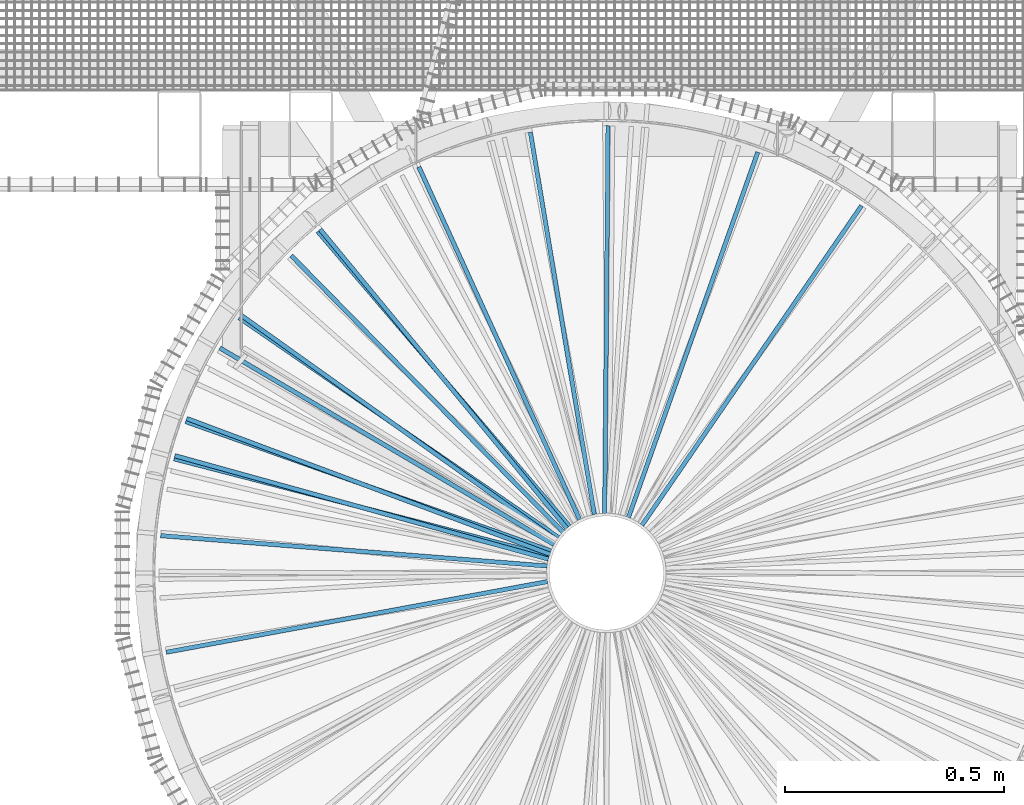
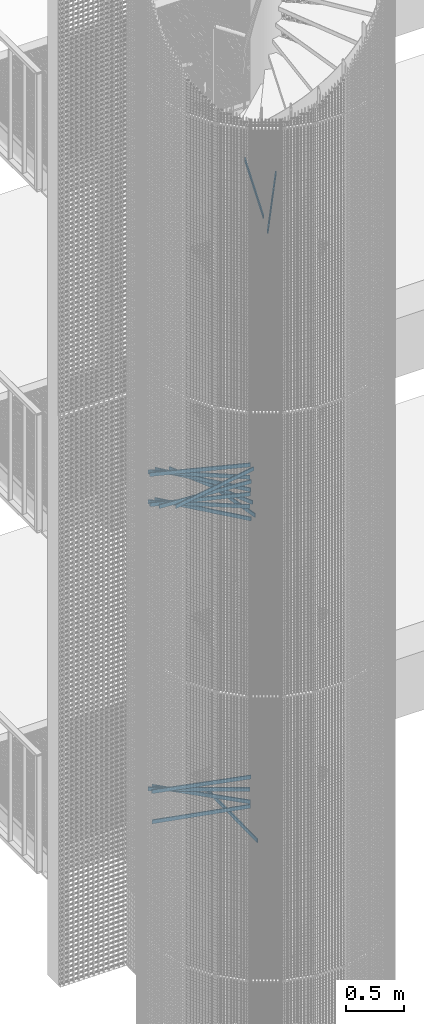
# One storey, part 226 of 1183: 17 beams, 2 elements without a shape of their own.
"""IFC2X3 building model written with IfcOpenShell, lengths in millimetres."""

import ifcopenshell
import ifcopenshell.guid

model = None  # the IFC model being written
_history = None  # IfcOwnerHistory: only IFC2X3 demands one
_inside = {}  # id of a spatial element -> (the spatial element, [elements in it])
_under = {}  # id of a project, library or spatial element -> (it, [spatial elements below it])
_declared = {}  # id of a project -> (the project, [libraries it declares])
_typed = {}  # id of a type object -> (the type object, [elements of that type])
_made_of = {}  # id of a material, layer set ... -> (it, [elements and type objects made of it])


def new_model(schema):
    """Start an empty IFC model of exactly this schema.

    Asked for "IFC4X3", IfcOpenShell would pick the latest addendum, in which some entities
    have other attributes; the version numbers below select the first issue.
    IFC2X3 requires an IfcOwnerHistory on every rooted entity: one is made here for all.
    """
    global model, _history
    if schema == "IFC4X3":
        model = ifcopenshell.file(schema_version=(4, 3, 0, 0))
    else:
        model = ifcopenshell.file(schema=schema)
    _inside.clear()
    _under.clear()
    _declared.clear()
    _typed.clear()
    _made_of.clear()
    _history = None
    if model.schema == "IFC2X3":
        org = make("IfcOrganization", Name="unknown")
        user = make(
            "IfcPersonAndOrganization",
            ThePerson=make("IfcPerson", FamilyName="unknown"),
            TheOrganization=org,
        )
        app = make(
            "IfcApplication",
            ApplicationDeveloper=org,
            Version="unknown",
            ApplicationFullName="unknown",
            ApplicationIdentifier="unknown",
        )
        _history = make(
            "IfcOwnerHistory",
            OwningUser=user,
            OwningApplication=app,
            ChangeAction="ADDED",
            CreationDate=0,
        )
    return model


def make(cls, **values):
    """One entity of the class cls with the attributes given. An attribute that is None is left unset."""
    return model.create_entity(
        cls, **{name: value for name, value in values.items() if value is not None}
    )


def rooted(cls, **values):
    """An entity with a GlobalId (a new one), such as an element, a storey or a relation."""
    return make(cls, GlobalId=ifcopenshell.guid.new(), OwnerHistory=_history, **values)


def si_unit(unit_type, name, prefix=None):
    """IfcSIUnit, for example si_unit("LENGTHUNIT", "METRE", prefix="MILLI")."""
    return make("IfcSIUnit", UnitType=unit_type, Prefix=prefix, Name=name)


def assignment(units):
    """IfcUnitAssignment: the units of a project."""
    return None if units is None else make("IfcUnitAssignment", Units=units)


def point(xyz):
    """IfcCartesianPoint."""
    return None if xyz is None else make("IfcCartesianPoint", Coordinates=xyz)


def direction(xyz):
    """IfcDirection."""
    return None if xyz is None else make("IfcDirection", DirectionRatios=xyz)


def frame(location, z_axis=None, x_axis=None):
    """IfcAxis2Placement3D, a coordinate frame: its origin and axes. An axis left out is left unset."""
    return make(
        "IfcAxis2Placement3D",
        Location=point(location),
        Axis=direction(z_axis),
        RefDirection=direction(x_axis),
    )


def frame_2d(location, x_axis=None):
    """IfcAxis2Placement2D, a coordinate frame in the plane: its origin and x axis."""
    return make(
        "IfcAxis2Placement2D", Location=point(location), RefDirection=direction(x_axis)
    )


def origin_with_axes():
    """The frame at (0, 0, 0) with the z axis (0, 0, 1) and the x axis (1, 0, 0) written out."""
    return frame((0.0, 0.0, 0.0), z_axis=(0.0, 0.0, 1.0), x_axis=(1.0, 0.0, 0.0))


def origin_2d_with_axis():
    """The frame at (0, 0) in the plane with the x axis (1, 0) written out."""
    return frame_2d((0.0, 0.0), x_axis=(1.0, 0.0))


def place(relative_to, where):
    """IfcLocalPlacement: puts the frame where relative to a parent placement (None: the world)."""
    return make(
        "IfcLocalPlacement", PlacementRelTo=relative_to, RelativePlacement=where
    )


def context(
    kind, dimensions, precision=None, world=None, true_north=None, identifier=None
):
    """IfcGeometricRepresentationContext, for example the 3D "Model" context."""
    return make(
        "IfcGeometricRepresentationContext",
        ContextIdentifier=identifier,
        ContextType=kind,
        CoordinateSpaceDimension=dimensions,
        Precision=precision,
        WorldCoordinateSystem=world,
        TrueNorth=true_north,
    )


def subcontext(parent, identifier, kind, view, scale=None):
    """IfcGeometricRepresentationSubContext, for example "Body" below "Model"."""
    return make(
        "IfcGeometricRepresentationSubContext",
        ContextIdentifier=identifier,
        ContextType=kind,
        ParentContext=parent,
        TargetScale=scale,
        TargetView=view,
    )


def project(units=None, contexts=None):
    """IfcProject with its units and contexts."""
    return rooted(
        "IfcProject",
        Name="project",
        RepresentationContexts=contexts,
        UnitsInContext=assignment(units),
    )


def spatial(cls, under=None, at=None, **own):
    """A site, building, storey or space (cls), placed at a placement, below another one or the project."""
    s = rooted(cls, ObjectPlacement=at, **own)
    if under is not None:
        _under.setdefault(under.id(), (under, []))[1].append(s)
    return s


def polyline(points):
    """IfcPolyline through the points."""
    return make("IfcPolyline", Points=[point(p) for p in points])


def profile(cls, at=None, kind="AREA", **sizes):
    """A parametric profile (cls). Its sizes go by their IFC names, for example OverallWidth=200.0."""
    return make(cls, ProfileType=kind, Position=at, **sizes)


def rectangle(**sizes):
    """IfcRectangleProfileDef."""
    return profile("IfcRectangleProfileDef", **sizes)


def outline(outer, holes=None, kind="AREA"):
    """IfcArbitraryClosedProfileDef: a profile drawn as a closed curve; with holes, ...WithVoids."""
    if holes is None:
        return make("IfcArbitraryClosedProfileDef", ProfileType=kind, OuterCurve=outer)
    return make(
        "IfcArbitraryProfileDefWithVoids",
        ProfileType=kind,
        OuterCurve=outer,
        InnerCurves=holes,
    )


def extrude(swept, where, along, depth):
    """IfcExtrudedAreaSolid: the profile swept, set in the frame where, extruded along a direction by depth."""
    return make(
        "IfcExtrudedAreaSolid",
        SweptArea=swept,
        Position=where,
        ExtrudedDirection=direction(along),
        Depth=depth,
    )


def boolean(op, a, b):
    """IfcBooleanResult of two solids."""
    return make("IfcBooleanResult", Operator=op, FirstOperand=a, SecondOperand=b)


def shape(context_of_items, identifier, shape_type, items):
    """IfcShapeRepresentation: the items that make up one representation, for example the "Body"."""
    return make(
        "IfcShapeRepresentation",
        ContextOfItems=context_of_items,
        RepresentationIdentifier=identifier,
        RepresentationType=shape_type,
        Items=items,
    )


def material(Name=None, Category=None):
    """IfcMaterial."""
    return make("IfcMaterial", Name=Name, Category=Category)


def made_of(thing, what):
    """Note that an element or type object is made of a material, layer set ...; save() writes the relation."""
    if what is not None:
        _made_of.setdefault(what.id(), (what, []))[1].append(thing)
    return thing


def type_object(cls, material=None, **own):
    """A type object (cls), such as IfcWallType, which elements share."""
    return made_of(rooted(cls, **own), material)


def element(
    cls,
    number,
    at=None,
    inside=None,
    cuts=None,
    type_object=None,
    material=None,
    context=None,
    identifier="Body",
    shape_type=None,
    held_by="IfcProductDefinitionShape",
    body=None,
    shapes=None,
    **own,
):
    """One element of the class cls, such as IfcWall. Its Tag is "e" and its number.

    at: its placement. inside: the storey or other place that contains it. cuts: it is an
    opening in that element (IfcRelVoidsElement). A single representation is given by context,
    identifier, shape_type and body (its items); several are given by shapes. held_by: the class
    of the entity that holds the representations. save() writes the other relations.
    """
    e = rooted(cls, Tag="e%d" % number, ObjectPlacement=at, **own)
    if body is not None:
        shapes = [shape(context, identifier, shape_type, body)]
    if shapes is not None:
        e.Representation = make(held_by, Representations=shapes)
    if inside is not None:
        _inside.setdefault(inside.id(), (inside, []))[1].append(e)
    if cuts is not None:
        rooted(
            "IfcRelVoidsElement", RelatingBuildingElement=cuts, RelatedOpeningElement=e
        )
    if type_object is not None:
        _typed.setdefault(type_object.id(), (type_object, []))[1].append(e)
    return made_of(e, material)


def aggregate(whole, parts):
    """IfcRelAggregates: a whole, such as a stair, and the parts it consists of."""
    return rooted("IfcRelAggregates", RelatingObject=whole, RelatedObjects=parts)


def save(model, path):
    """Write the relations noted so far, then the file.

    IfcRelAggregates (storeys below a building ...), IfcRelContainedInSpatialStructure (elements
    in a storey), IfcRelDefinesByType, IfcRelAssociatesMaterial and IfcRelDeclares: one each for
    every whole, place, type object, material and project.
    """
    for whole, parts in _under.values():
        aggregate(whole, parts)
    for where, things in _inside.values():
        rooted(
            "IfcRelContainedInSpatialStructure",
            RelatedElements=things,
            RelatingStructure=where,
        )
    for kind, things in _typed.values():
        rooted("IfcRelDefinesByType", RelatedObjects=things, RelatingType=kind)
    for what, things in _made_of.values():
        rooted("IfcRelAssociatesMaterial", RelatedObjects=things, RelatingMaterial=what)
    for by, libraries in _declared.values():
        rooted("IfcRelDeclares", RelatingContext=by, RelatedDefinitions=libraries)
    model.write(path)


model = new_model("IFC2X3")

# Units and contexts
model_context = context("Model", 3, precision=1e-05, world=origin_with_axes())
body_context = subcontext(model_context, "Body", "Model", "MODEL_VIEW")
ifc_project = project(units=[si_unit("LENGTHUNIT", "METRE", prefix="MILLI"), si_unit("AREAUNIT", "SQUARE_METRE"), si_unit("VOLUMEUNIT", "CUBIC_METRE"), si_unit("MASSUNIT", "GRAM", prefix="KILO"), si_unit("TIMEUNIT", "SECOND"), si_unit("PLANEANGLEUNIT", "RADIAN"), si_unit("SOLIDANGLEUNIT", "STERADIAN"), si_unit("THERMODYNAMICTEMPERATUREUNIT", "DEGREE_CELSIUS"), si_unit("LUMINOUSINTENSITYUNIT", "LUMEN")], contexts=[model_context])

# Site, building, storey
site_placement = place(None, origin_with_axes())
site = spatial("IfcSite", under=ifc_project, at=site_placement, Name="Undefined", CompositionType="ELEMENT")
building_placement = place(site_placement, origin_with_axes())
building = spatial("IfcBuilding", under=site, at=building_placement, Name="Undefined", CompositionType="ELEMENT")
storey_placement = place(building_placement, origin_with_axes())
storey = spatial("IfcBuildingStorey", under=building, at=storey_placement, Name="Undefined", CompositionType="ELEMENT", Elevation=0.0)

# Assembly, beams
assembly_1_placement = place(storey_placement, origin_with_axes())
assembly_1 = element("IfcElementAssembly", 1, at=assembly_1_placement, inside=storey, Name="POTEAU", AssemblyPlace="NOTDEFINED", PredefinedType="NOTDEFINED")
ifc_material = material(Name="STEEL/S235JR")
beam_type = type_object("IfcBeamType", Name="PL10*40", PredefinedType="NOTDEFINED")
beam_1_placement = place(assembly_1_placement, frame((-83.418226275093, -10.3535337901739, 10692.08), z_axis=(0.0, 0.0, 1.0), x_axis=(-0.983301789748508, -0.181982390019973, 0.0)))
beam_1 = element("IfcBeam", 2, at=beam_1_placement, type_object=beam_type, material=ifc_material, Name="RAIDISSEUR", context=body_context, shape_type="CSG", body=[
    boolean("DIFFERENCE", extrude(rectangle(XDim=10.0, YDim=40.0, at=origin_2d_with_axis()), frame((935.982964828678, -2.59787459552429e-14, -3.63797880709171e-12), z_axis=(-1.0, 0.0, 0.0), x_axis=(0.0, -1.0, 0.0)), (0.0, 0.0, 1.0), 935.98), extrude(outline(polyline([(0.0, 0.0), (30.5663019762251, -4.91127138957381e-11), (60.366242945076, 6.80164206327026), (87.9055294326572, 20.0638634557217), (111.803226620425, 39.1216410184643), (130.861004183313, 63.0193382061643), (144.123225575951, 90.5586246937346), (150.9248676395, 120.358565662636), (150.924867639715, 150.924867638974), (144.123225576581, 180.724808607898), (130.86100418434, 208.264095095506), (111.803226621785, 232.161792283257), (87.9055294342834, 251.219569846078), (60.3662429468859, 264.481791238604), (30.5663019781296, 271.283433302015), (1.90266291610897e-09, 271.28343330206), (-29.7999409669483, 264.481791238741), (-57.3392274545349, 251.219569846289), (-81.2369246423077, 232.161792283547), (-100.294702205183, 208.26409509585), (-113.556923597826, 180.724808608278), (-120.35856566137, 150.92486763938), (-120.358565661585, 120.358565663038), (-113.556923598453, 90.5586246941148), (-100.294702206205, 63.0193382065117), (-81.2369246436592, 39.1216410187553), (-57.3392274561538, 20.0638634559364), (-29.7999409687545, 6.80164206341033), (0.0, 0.0)])), frame((49.6502307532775, -23.1790904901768, -22.5), z_axis=(0.0, 0.0, 1.0), x_axis=(0.0955894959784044, 0.995420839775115, 0.0)), (0.0, 0.0, 1.0), 45.0)),
])
beam_2_placement = place(assembly_1_placement, frame((51.6645395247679, 66.3066474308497, 13039.88), z_axis=(0.0, 0.0, 1.0), x_axis=(0.566618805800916, 0.823980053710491, 0.0)))
beam_2 = element("IfcBeam", 3, at=beam_2_placement, type_object=beam_type, material=ifc_material, Name="RAIDISSEUR", context=body_context, shape_type="CSG", body=[
    boolean("DIFFERENCE", extrude(rectangle(XDim=10.0, YDim=40.0, at=origin_2d_with_axis()), frame((935.982964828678, -2.59787459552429e-14, -3.63797880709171e-12), z_axis=(-1.0, 0.0, 0.0), x_axis=(0.0, -1.0, 0.0)), (0.0, 0.0, 1.0), 935.98), extrude(outline(polyline([(0.0, 0.0), (30.5663019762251, -4.91127138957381e-11), (60.366242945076, 6.80164206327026), (87.9055294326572, 20.0638634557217), (111.803226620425, 39.1216410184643), (130.861004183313, 63.0193382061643), (144.123225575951, 90.5586246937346), (150.9248676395, 120.358565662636), (150.924867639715, 150.924867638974), (144.123225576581, 180.724808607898), (130.86100418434, 208.264095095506), (111.803226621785, 232.161792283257), (87.9055294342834, 251.219569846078), (60.3662429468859, 264.481791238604), (30.5663019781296, 271.283433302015), (1.90266291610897e-09, 271.28343330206), (-29.7999409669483, 264.481791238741), (-57.3392274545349, 251.219569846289), (-81.2369246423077, 232.161792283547), (-100.294702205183, 208.26409509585), (-113.556923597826, 180.724808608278), (-120.35856566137, 150.92486763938), (-120.358565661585, 120.358565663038), (-113.556923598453, 90.5586246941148), (-100.294702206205, 63.0193382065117), (-81.2369246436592, 39.1216410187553), (-57.3392274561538, 20.0638634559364), (-29.7999409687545, 6.80164206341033), (0.0, 0.0)])), frame((-158.424783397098, 119.366583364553, -22.5), z_axis=(0.0, 0.0, 1.0), x_axis=(-0.771460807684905, -0.636276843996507, 0.0)), (0.0, 0.0, 1.0), 45.0)),
])
beam_3_placement = place(assembly_1_placement, frame((-80.353043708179, 24.6816633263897, 10692.08), z_axis=(0.0, 0.0, 1.0), x_axis=(-0.936762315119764, 0.349966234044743, 0.0)))
beam_3 = element("IfcBeam", 4, at=beam_3_placement, type_object=beam_type, material=ifc_material, Name="RAIDISSEUR", context=body_context, shape_type="CSG", body=[
    boolean("DIFFERENCE", extrude(rectangle(XDim=10.0, YDim=40.0, at=origin_2d_with_axis()), frame((935.982964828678, -2.59787459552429e-14, -3.63797880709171e-12), z_axis=(-1.0, 0.0, 0.0), x_axis=(0.0, -1.0, 0.0)), (0.0, 0.0, 1.0), 935.98), extrude(outline(polyline([(0.0, 0.0), (30.5663019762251, -4.91127138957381e-11), (60.366242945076, 6.80164206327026), (87.9055294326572, 20.0638634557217), (111.803226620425, 39.1216410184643), (130.861004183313, 63.0193382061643), (144.123225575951, 90.5586246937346), (150.9248676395, 120.358565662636), (150.924867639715, 150.924867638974), (144.123225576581, 180.724808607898), (130.86100418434, 208.264095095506), (111.803226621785, 232.161792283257), (87.9055294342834, 251.219569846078), (60.3662429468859, 264.481791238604), (30.5663019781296, 271.283433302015), (1.90266291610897e-09, 271.28343330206), (-29.7999409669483, 264.481791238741), (-57.3392274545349, 251.219569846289), (-81.2369246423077, 232.161792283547), (-100.294702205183, 208.26409509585), (-113.556923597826, 180.724808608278), (-120.35856566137, 150.92486763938), (-120.358565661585, 120.358565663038), (-113.556923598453, 90.5586246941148), (-100.294702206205, 63.0193382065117), (-81.2369246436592, 39.1216410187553), (-57.3392274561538, 20.0638634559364), (-29.7999409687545, 6.80164206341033), (0.0, 0.0)])), frame((45.1098092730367, 39.5677037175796, -22.5), z_axis=(0.0, 0.0, 1.0), x_axis=(-0.430278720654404, 0.902696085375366, 0.0)), (0.0, 0.0, 1.0), 45.0)),
])
beam_4_placement = place(assembly_1_placement, frame((-39.3656105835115, 74.2707535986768, 10222.52), z_axis=(0.0, 0.0, 1.0), x_axis=(-0.414927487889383, 0.909854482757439, 0.0)))
beam_4 = element("IfcBeam", 5, at=beam_4_placement, type_object=beam_type, material=ifc_material, Name="RAIDISSEUR", context=body_context, shape_type="CSG", body=[
    boolean("DIFFERENCE", extrude(rectangle(XDim=10.0, YDim=40.0, at=origin_2d_with_axis()), frame((935.982964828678, -2.59787459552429e-14, -3.63797880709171e-12), z_axis=(-1.0, 0.0, 0.0), x_axis=(0.0, -1.0, 0.0)), (0.0, 0.0, 1.0), 935.98), extrude(outline(polyline([(0.0, 0.0), (30.5663019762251, -4.91127138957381e-11), (60.366242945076, 6.80164206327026), (87.9055294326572, 20.0638634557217), (111.803226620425, 39.1216410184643), (130.861004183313, 63.0193382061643), (144.123225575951, 90.5586246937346), (150.9248676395, 120.358565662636), (150.924867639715, 150.924867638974), (144.123225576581, 180.724808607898), (130.86100418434, 208.264095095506), (111.803226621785, 232.161792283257), (87.9055294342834, 251.219569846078), (60.3662429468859, 264.481791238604), (30.5663019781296, 271.283433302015), (1.90266291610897e-09, 271.28343330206), (-29.7999409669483, 264.481791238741), (-57.3392274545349, 251.219569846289), (-81.2369246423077, 232.161792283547), (-100.294702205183, 208.26409509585), (-113.556923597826, 180.724808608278), (-120.35856566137, 150.92486763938), (-120.358565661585, 120.358565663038), (-113.556923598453, 90.5586246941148), (-100.294702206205, 63.0193382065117), (-81.2369246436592, 39.1216410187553), (-57.3392274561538, 20.0638634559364), (-29.7999409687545, 6.80164206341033), (0.0, 0.0)])), frame((-24.1931830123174, 117.744520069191, -22.5), z_axis=(0.0, 0.0, 1.0), x_axis=(-0.942555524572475, 0.334049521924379, 0.0)), (0.0, 0.0, 1.0), 45.0)),
])
beam_5_placement = place(assembly_1_placement, frame((-77.4190699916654, 32.7426898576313, 10379.04), z_axis=(0.0, 0.0, 1.0), x_axis=(-0.942555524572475, 0.334049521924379, 0.0)))
beam_5 = element("IfcBeam", 6, at=beam_5_placement, type_object=beam_type, material=ifc_material, Name="RAIDISSEUR", context=body_context, shape_type="CSG", body=[
    boolean("DIFFERENCE", extrude(rectangle(XDim=10.0, YDim=40.0, at=origin_2d_with_axis()), frame((935.982964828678, -2.59787459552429e-14, -3.63797880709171e-12), z_axis=(-1.0, 0.0, 0.0), x_axis=(0.0, -1.0, 0.0)), (0.0, 0.0, 1.0), 935.98), extrude(outline(polyline([(0.0, 0.0), (30.5663019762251, -4.91127138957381e-11), (60.366242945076, 6.80164206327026), (87.9055294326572, 20.0638634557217), (111.803226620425, 39.1216410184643), (130.861004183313, 63.0193382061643), (144.123225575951, 90.5586246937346), (150.9248676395, 120.358565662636), (150.924867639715, 150.924867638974), (144.123225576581, 180.724808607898), (130.86100418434, 208.264095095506), (111.803226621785, 232.161792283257), (87.9055294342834, 251.219569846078), (60.3662429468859, 264.481791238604), (30.5663019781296, 271.283433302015), (1.90266291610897e-09, 271.28343330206), (-29.7999409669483, 264.481791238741), (-57.3392274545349, 251.219569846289), (-81.2369246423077, 232.161792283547), (-100.294702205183, 208.26409509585), (-113.556923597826, 180.724808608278), (-120.35856566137, 150.92486763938), (-120.358565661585, 120.358565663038), (-113.556923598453, 90.5586246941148), (-100.294702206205, 63.0193382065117), (-81.2369246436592, 39.1216410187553), (-57.3392274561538, 20.0638634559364), (-29.7999409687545, 6.80164206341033), (0.0, 0.0)])), frame((45.8461714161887, 47.3760331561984, -22.5000000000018), z_axis=(0.0, 0.0, 1.0), x_axis=(-0.414927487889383, 0.909854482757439, 0.0)), (0.0, 0.0, 1.0), 45.0)),
])
beam_6_placement = place(assembly_1_placement, frame((-83.2555108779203, 11.5894799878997, 10535.56), z_axis=(0.0, 0.0, 1.0), x_axis=(-0.996897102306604, 0.0787157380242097, 0.0)))
beam_6 = element("IfcBeam", 7, at=beam_6_placement, type_object=beam_type, material=ifc_material, Name="RAIDISSEUR", context=body_context, shape_type="CSG", body=[
    boolean("DIFFERENCE", extrude(rectangle(XDim=10.0, YDim=40.0, at=origin_2d_with_axis()), frame((935.982964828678, -2.59787459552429e-14, -3.63797880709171e-12), z_axis=(-1.0, 0.0, 0.0), x_axis=(0.0, -1.0, 0.0)), (0.0, 0.0, 1.0), 935.98), extrude(outline(polyline([(0.0, 0.0), (30.5663019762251, -4.91127138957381e-11), (60.366242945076, 6.80164206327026), (87.9055294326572, 20.0638634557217), (111.803226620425, 39.1216410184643), (130.861004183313, 63.0193382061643), (144.123225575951, 90.5586246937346), (150.9248676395, 120.358565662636), (150.924867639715, 150.924867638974), (144.123225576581, 180.724808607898), (130.86100418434, 208.264095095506), (111.803226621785, 232.161792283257), (87.9055294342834, 251.219569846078), (60.3662429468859, 264.481791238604), (30.5663019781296, 271.283433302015), (1.90266291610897e-09, 271.28343330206), (-29.7999409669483, 264.481791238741), (-57.3392274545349, 251.219569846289), (-81.2369246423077, 232.161792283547), (-100.294702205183, 208.26409509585), (-113.556923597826, 180.724808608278), (-120.35856566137, 150.92486763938), (-120.358565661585, 120.358565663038), (-113.556923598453, 90.5586246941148), (-100.294702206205, 63.0193382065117), (-81.2369246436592, 39.1216410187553), (-57.3392274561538, 20.0638634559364), (-29.7999409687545, 6.80164206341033), (0.0, 0.0)])), frame((52.3925802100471, 12.3488782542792, -22.5000000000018), z_axis=(0.0, 0.0, 1.0), x_axis=(-0.165301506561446, 0.986243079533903, 0.0)), (0.0, 0.0, 1.0), 45.0)),
])
beam_7_placement = place(assembly_1_placement, frame((-66.3066474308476, 51.6645395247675, 10222.52), z_axis=(0.0, 0.0, 1.0), x_axis=(-0.823980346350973, 0.56661838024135, 0.0)))
beam_7 = element("IfcBeam", 8, at=beam_7_placement, type_object=beam_type, material=ifc_material, Name="RAIDISSEUR", context=body_context, shape_type="CSG", body=[
    boolean("DIFFERENCE", extrude(rectangle(XDim=10.0, YDim=40.0, at=origin_2d_with_axis()), frame((935.982964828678, -2.59787459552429e-14, -3.63797880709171e-12), z_axis=(-1.0, 0.0, 0.0), x_axis=(0.0, -1.0, 0.0)), (0.0, 0.0, 1.0), 935.98), extrude(outline(polyline([(0.0, 0.0), (30.5663019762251, -4.91127138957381e-11), (60.366242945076, 6.80164206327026), (87.9055294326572, 20.0638634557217), (111.803226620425, 39.1216410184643), (130.861004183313, 63.0193382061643), (144.123225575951, 90.5586246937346), (150.9248676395, 120.358565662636), (150.924867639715, 150.924867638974), (144.123225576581, 180.724808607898), (130.86100418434, 208.264095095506), (111.803226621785, 232.161792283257), (87.9055294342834, 251.219569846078), (60.3662429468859, 264.481791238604), (30.5663019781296, 271.283433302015), (1.90266291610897e-09, 271.28343330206), (-29.7999409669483, 264.481791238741), (-57.3392274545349, 251.219569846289), (-81.2369246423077, 232.161792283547), (-100.294702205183, 208.26409509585), (-113.556923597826, 180.724808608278), (-120.35856566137, 150.92486763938), (-120.358565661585, 120.358565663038), (-113.556923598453, 90.5586246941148), (-100.294702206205, 63.0193382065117), (-81.2369246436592, 39.1216410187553), (-57.3392274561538, 20.0638634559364), (-29.7999409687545, 6.80164206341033), (0.0, 0.0)])), frame((30.4571313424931, 79.5153313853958, -22.5), z_axis=(0.0, 0.0, 1.0), x_axis=(-0.636276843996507, 0.771460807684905, 0.0)), (0.0, 0.0, 1.0), 45.0)),
])
beam_8_placement = place(assembly_1_placement, frame((-71.2269955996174, 44.6375540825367, 10535.56), z_axis=(0.0, 0.0, 1.0), x_axis=(-0.814264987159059, 0.580493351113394, 0.0)))
beam_8 = element("IfcBeam", 9, at=beam_8_placement, type_object=beam_type, material=ifc_material, Name="RAIDISSEUR", context=body_context, shape_type="CSG", body=[
    boolean("DIFFERENCE", extrude(rectangle(XDim=10.0, YDim=40.0, at=origin_2d_with_axis()), frame((935.982964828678, -2.59787459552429e-14, -3.63797880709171e-12), z_axis=(-1.0, 0.0, 0.0), x_axis=(0.0, -1.0, 0.0)), (0.0, 0.0, 1.0), 935.98), extrude(outline(polyline([(0.0, 0.0), (30.5663019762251, -4.91127138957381e-11), (60.366242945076, 6.80164206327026), (87.9055294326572, 20.0638634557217), (111.803226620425, 39.1216410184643), (130.861004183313, 63.0193382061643), (144.123225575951, 90.5586246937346), (150.9248676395, 120.358565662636), (150.924867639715, 150.924867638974), (144.123225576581, 180.724808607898), (130.86100418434, 208.264095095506), (111.803226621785, 232.161792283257), (87.9055294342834, 251.219569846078), (60.3662429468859, 264.481791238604), (30.5663019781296, 271.283433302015), (1.90266291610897e-09, 271.28343330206), (-29.7999409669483, 264.481791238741), (-57.3392274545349, 251.219569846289), (-81.2369246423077, 232.161792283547), (-100.294702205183, 208.26409509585), (-113.556923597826, 180.724808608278), (-120.35856566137, 150.92486763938), (-120.358565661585, 120.358565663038), (-113.556923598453, 90.5586246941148), (-100.294702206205, 63.0193382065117), (-81.2369246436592, 39.1216410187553), (-57.3392274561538, 20.0638634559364), (-29.7999409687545, 6.80164206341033), (0.0, 0.0)])), frame((29.1786140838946, 71.4417380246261, -22.5), z_axis=(0.0, 0.0, 1.0), x_axis=(-0.649252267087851, 0.760573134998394, 0.0)), (0.0, 0.0, 1.0), 45.0)),
])
beam_9_placement = place(assembly_1_placement, frame((32.7426898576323, 77.4190699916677, 13196.4), z_axis=(0.0, 0.0, 1.0), x_axis=(0.334049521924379, 0.942555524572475, 0.0)))
beam_9 = element("IfcBeam", 10, at=beam_9_placement, type_object=beam_type, material=ifc_material, Name="RAIDISSEUR", context=body_context, shape_type="CSG", body=[
    boolean("DIFFERENCE", extrude(rectangle(XDim=10.0, YDim=40.0, at=origin_2d_with_axis()), frame((935.982964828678, -2.59787459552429e-14, -3.63797880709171e-12), z_axis=(-1.0, 0.0, 0.0), x_axis=(0.0, -1.0, 0.0)), (0.0, 0.0, 1.0), 935.98), extrude(outline(polyline([(0.0, 0.0), (30.5663019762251, -4.91127138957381e-11), (60.366242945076, 6.80164206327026), (87.9055294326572, 20.0638634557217), (111.803226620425, 39.1216410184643), (130.861004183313, 63.0193382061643), (144.123225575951, 90.5586246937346), (150.9248676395, 120.358565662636), (150.924867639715, 150.924867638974), (144.123225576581, 180.724808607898), (130.86100418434, 208.264095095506), (111.803226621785, 232.161792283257), (87.9055294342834, 251.219569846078), (60.3662429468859, 264.481791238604), (30.5663019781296, 271.283433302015), (1.90266291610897e-09, 271.28343330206), (-29.7999409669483, 264.481791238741), (-57.3392274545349, 251.219569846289), (-81.2369246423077, 232.161792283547), (-100.294702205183, 208.26409509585), (-113.556923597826, 180.724808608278), (-120.35856566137, 150.92486763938), (-120.358565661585, 120.358565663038), (-113.556923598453, 90.5586246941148), (-100.294702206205, 63.0193382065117), (-81.2369246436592, 39.1216410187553), (-57.3392274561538, 20.0638634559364), (-29.7999409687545, 6.80164206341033), (0.0, 0.0)])), frame((-126.285485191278, 134.755623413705, -22.5), z_axis=(0.0, 0.0, 1.0), x_axis=(-0.909854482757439, -0.414927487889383, 0.0)), (0.0, 0.0, 1.0), 45.0)),
])
beam_10_placement = place(assembly_1_placement, frame((-57.2469454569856, 61.5514692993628, 10379.04), z_axis=(0.0, 0.0, 1.0), x_axis=(-0.636276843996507, 0.771460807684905, 0.0)))
beam_10 = element("IfcBeam", 11, at=beam_10_placement, type_object=beam_type, material=ifc_material, Name="RAIDISSEUR", context=body_context, shape_type="CSG", body=[
    boolean("DIFFERENCE", extrude(rectangle(XDim=10.0, YDim=40.0, at=origin_2d_with_axis()), frame((935.982964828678, -2.59787459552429e-14, -3.63797880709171e-12), z_axis=(-1.0, 0.0, 0.0), x_axis=(0.0, -1.0, 0.0)), (0.0, 0.0, 1.0), 935.98), extrude(outline(polyline([(0.0, 0.0), (30.5663019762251, -4.91127138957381e-11), (60.366242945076, 6.80164206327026), (87.9055294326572, 20.0638634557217), (111.803226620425, 39.1216410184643), (130.861004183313, 63.0193382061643), (144.123225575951, 90.5586246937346), (150.9248676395, 120.358565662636), (150.924867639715, 150.924867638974), (144.123225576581, 180.724808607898), (130.86100418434, 208.264095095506), (111.803226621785, 232.161792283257), (87.9055294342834, 251.219569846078), (60.3662429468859, 264.481791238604), (30.5663019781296, 271.283433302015), (1.90266291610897e-09, 271.28343330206), (-29.7999409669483, 264.481791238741), (-57.3392274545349, 251.219569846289), (-81.2369246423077, 232.161792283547), (-100.294702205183, 208.26409509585), (-113.556923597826, 180.724808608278), (-120.35856566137, 150.92486763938), (-120.358565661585, 120.358565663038), (-113.556923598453, 90.5586246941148), (-100.294702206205, 63.0193382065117), (-81.2369246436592, 39.1216410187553), (-57.3392274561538, 20.0638634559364), (-29.7999409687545, 6.80164206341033), (0.0, 0.0)])), frame((5.54065394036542, 98.1063942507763, -22.5), z_axis=(0.0, 0.0, 1.0), x_axis=(-0.823980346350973, 0.56661838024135, 0.0)), (0.0, 0.0, 1.0), 45.0)),
])
beam_11_placement = place(assembly_1_placement, frame((-50.6755364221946, 67.065536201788, 10066.0), z_axis=(0.0, 0.0, 1.0), x_axis=(-0.649252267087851, 0.760573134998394, 0.0)))
beam_11 = element("IfcBeam", 12, at=beam_11_placement, type_object=beam_type, material=ifc_material, Name="RAIDISSEUR", context=body_context, shape_type="CSG", body=[
    boolean("DIFFERENCE", extrude(rectangle(XDim=10.0, YDim=40.0, at=origin_2d_with_axis()), frame((935.982964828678, -2.59787459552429e-14, -3.63797880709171e-12), z_axis=(-1.0, 0.0, 0.0), x_axis=(0.0, -1.0, 0.0)), (0.0, 0.0, 1.0), 935.98), extrude(outline(polyline([(0.0, 0.0), (30.5663019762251, -4.91127138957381e-11), (60.366242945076, 6.80164206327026), (87.9055294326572, 20.0638634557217), (111.803226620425, 39.1216410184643), (130.861004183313, 63.0193382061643), (144.123225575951, 90.5586246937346), (150.9248676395, 120.358565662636), (150.924867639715, 150.924867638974), (144.123225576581, 180.724808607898), (130.86100418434, 208.264095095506), (111.803226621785, 232.161792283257), (87.9055294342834, 251.219569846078), (60.3662429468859, 264.481791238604), (30.5663019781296, 271.283433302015), (1.90266291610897e-09, 271.28343330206), (-29.7999409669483, 264.481791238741), (-57.3392274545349, 251.219569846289), (-81.2369246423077, 232.161792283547), (-100.294702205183, 208.26409509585), (-113.556923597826, 180.724808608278), (-120.35856566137, 150.92486763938), (-120.358565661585, 120.358565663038), (-113.556923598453, 90.5586246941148), (-100.294702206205, 63.0193382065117), (-81.2369246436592, 39.1216410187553), (-57.3392274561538, 20.0638634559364), (-29.7999409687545, 6.80164206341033), (0.0, 0.0)])), frame((7.27419758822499, 106.576532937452, -22.5), z_axis=(0.0, 0.0, 1.0), x_axis=(-0.814264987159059, 0.580493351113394, 0.0)), (0.0, 0.0, 1.0), 45.0)),
])
beam_12_placement = place(assembly_1_placement, frame((-18.801574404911, 81.9286087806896, 10066.0), z_axis=(0.0, 0.0, 1.0), x_axis=(-0.165301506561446, 0.986243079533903, 0.0)))
beam_12 = element("IfcBeam", 13, at=beam_12_placement, type_object=beam_type, material=ifc_material, Name="RAIDISSEUR", context=body_context, shape_type="CSG", body=[
    boolean("DIFFERENCE", extrude(rectangle(XDim=10.0, YDim=40.0, at=origin_2d_with_axis()), frame((935.982964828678, -2.59787459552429e-14, -3.63797880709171e-12), z_axis=(-1.0, 0.0, 0.0), x_axis=(0.0, -1.0, 0.0)), (0.0, 0.0, 1.0), 935.98), extrude(outline(polyline([(0.0, 0.0), (30.5663019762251, -4.91127138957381e-11), (60.366242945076, 6.80164206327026), (87.9055294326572, 20.0638634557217), (111.803226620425, 39.1216410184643), (130.861004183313, 63.0193382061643), (144.123225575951, 90.5586246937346), (150.9248676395, 120.358565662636), (150.924867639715, 150.924867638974), (144.123225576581, 180.724808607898), (130.86100418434, 208.264095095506), (111.803226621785, 232.161792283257), (87.9055294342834, 251.219569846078), (60.3662429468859, 264.481791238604), (30.5663019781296, 271.283433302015), (1.90266291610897e-09, 271.28343330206), (-29.7999409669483, 264.481791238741), (-57.3392274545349, 251.219569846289), (-81.2369246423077, 232.161792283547), (-100.294702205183, 208.26409509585), (-113.556923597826, 180.724808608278), (-120.35856566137, 150.92486763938), (-120.358565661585, 120.358565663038), (-113.556923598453, 90.5586246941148), (-100.294702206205, 63.0193382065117), (-81.2369246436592, 39.1216410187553), (-57.3392274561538, 20.0638634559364), (-29.7999409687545, 6.80164206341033), (0.0, 0.0)])), frame((-57.9965849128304, 129.017809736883, -22.5), z_axis=(0.0, 0.0, 1.0), x_axis=(-0.996897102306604, 0.0787157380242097, 0.0)), (0.0, 0.0, 1.0), 45.0)),
])
aggregate(assembly_1, [beam_1, beam_2, beam_3, beam_4, beam_5, beam_6, beam_7, beam_8, beam_9, beam_10, beam_11, beam_12])

assembly_2_placement = place(storey_placement, origin_with_axes())
assembly_2 = element("IfcElementAssembly", 14, at=assembly_2_placement, inside=storey, Name="POTEAU", AssemblyPlace="NOTDEFINED", PredefinedType="NOTDEFINED")
beam_13_placement = place(assembly_2_placement, frame((-82.1984248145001, 17.5845129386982, 7405.12), z_axis=(0.0, 0.0, 1.0), x_axis=(-0.963699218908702, 0.266990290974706, 0.0)))
beam_13 = element("IfcBeam", 15, at=beam_13_placement, type_object=beam_type, material=ifc_material, Name="RAIDISSEUR", context=body_context, shape_type="CSG", body=[
    boolean("DIFFERENCE", extrude(rectangle(XDim=10.0, YDim=40.0, at=origin_2d_with_axis()), frame((935.982964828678, -2.59787459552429e-14, -3.63797880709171e-12), z_axis=(-1.0, 0.0, 0.0), x_axis=(0.0, -1.0, 0.0)), (0.0, 0.0, 1.0), 935.98), extrude(outline(polyline([(0.0, 0.0), (30.5663019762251, -4.91127138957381e-11), (60.366242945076, 6.80164206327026), (87.9055294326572, 20.0638634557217), (111.803226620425, 39.1216410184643), (130.861004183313, 63.0193382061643), (144.123225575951, 90.5586246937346), (150.9248676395, 120.358565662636), (150.924867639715, 150.924867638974), (144.123225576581, 180.724808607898), (130.86100418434, 208.264095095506), (111.803226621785, 232.161792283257), (87.9055294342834, 251.219569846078), (60.3662429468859, 264.481791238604), (30.5663019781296, 271.283433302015), (1.90266291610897e-09, 271.28343330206), (-29.7999409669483, 264.481791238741), (-57.3392274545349, 251.219569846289), (-81.2369246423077, 232.161792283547), (-100.294702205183, 208.26409509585), (-113.556923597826, 180.724808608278), (-120.35856566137, 150.92486763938), (-120.358565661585, 120.358565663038), (-113.556923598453, 90.5586246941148), (-100.294702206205, 63.0193382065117), (-81.2369246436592, 39.1216410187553), (-57.3392274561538, 20.0638634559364), (-29.7999409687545, 6.80164206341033), (0.0, 0.0)])), frame((48.5031833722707, 28.1533405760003, -22.5), z_axis=(0.0, 0.0, 1.0), x_axis=(-0.349966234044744, 0.936762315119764, 0.0)), (0.0, 0.0, 1.0), 45.0)),
])
beam_14_placement = place(assembly_2_placement, frame((-74.8463745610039, 38.2598530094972, 7248.6), z_axis=(0.0, 0.0, 1.0), x_axis=(-0.861759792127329, 0.507316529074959, 0.0)))
beam_14 = element("IfcBeam", 16, at=beam_14_placement, type_object=beam_type, material=ifc_material, Name="RAIDISSEUR", context=body_context, shape_type="CSG", body=[
    boolean("DIFFERENCE", extrude(rectangle(XDim=10.0, YDim=40.0, at=origin_2d_with_axis()), frame((935.982964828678, -2.59787459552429e-14, -3.63797880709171e-12), z_axis=(-1.0, 0.0, 0.0), x_axis=(0.0, -1.0, 0.0)), (0.0, 0.0, 1.0), 935.98), extrude(outline(polyline([(0.0, 0.0), (30.5663019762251, -4.91127138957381e-11), (60.366242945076, 6.80164206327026), (87.9055294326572, 20.0638634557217), (111.803226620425, 39.1216410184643), (130.861004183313, 63.0193382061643), (144.123225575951, 90.5586246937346), (150.9248676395, 120.358565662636), (150.924867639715, 150.924867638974), (144.123225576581, 180.724808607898), (130.86100418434, 208.264095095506), (111.803226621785, 232.161792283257), (87.9055294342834, 251.219569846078), (60.3662429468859, 264.481791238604), (30.5663019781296, 271.283433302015), (1.90266291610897e-09, 271.28343330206), (-29.7999409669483, 264.481791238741), (-57.3392274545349, 251.219569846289), (-81.2369246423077, 232.161792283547), (-100.294702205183, 208.26409509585), (-113.556923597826, 180.724808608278), (-120.35856566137, 150.92486763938), (-120.358565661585, 120.358565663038), (-113.556923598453, 90.5586246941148), (-100.294702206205, 63.0193382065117), (-81.2369246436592, 39.1216410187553), (-57.3392274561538, 20.0638634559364), (-29.7999409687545, 6.80164206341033), (0.0, 0.0)])), frame((35.4106162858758, 61.2945797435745, -22.5), z_axis=(0.0, 0.0, 1.0), x_axis=(-0.580493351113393, 0.814264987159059, 0.0)), (0.0, 0.0, 1.0), 45.0)),
])
beam_15_placement = place(assembly_2_placement, frame((-79.9781805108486, 25.8705774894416, 7092.08), z_axis=(0.0, 0.0, 1.0), x_axis=(-0.968083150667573, 0.250629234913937, 0.0)))
beam_15 = element("IfcBeam", 17, at=beam_15_placement, type_object=beam_type, material=ifc_material, Name="RAIDISSEUR", context=body_context, shape_type="CSG", body=[
    boolean("DIFFERENCE", extrude(rectangle(XDim=10.0, YDim=40.0, at=origin_2d_with_axis()), frame((935.982964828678, -2.59787459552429e-14, -3.63797880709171e-12), z_axis=(-1.0, 0.0, 0.0), x_axis=(0.0, -1.0, 0.0)), (0.0, 0.0, 1.0), 935.98), extrude(outline(polyline([(0.0, 0.0), (30.5663019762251, -4.91127138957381e-11), (60.366242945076, 6.80164206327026), (87.9055294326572, 20.0638634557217), (111.803226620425, 39.1216410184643), (130.861004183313, 63.0193382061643), (144.123225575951, 90.5586246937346), (150.9248676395, 120.358565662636), (150.924867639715, 150.924867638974), (144.123225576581, 180.724808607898), (130.86100418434, 208.264095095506), (111.803226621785, 232.161792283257), (87.9055294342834, 251.219569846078), (60.3662429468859, 264.481791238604), (30.5663019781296, 271.283433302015), (1.90266291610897e-09, 271.28343330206), (-29.7999409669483, 264.481791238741), (-57.3392274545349, 251.219569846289), (-81.2369246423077, 232.161792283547), (-100.294702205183, 208.26409509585), (-113.556923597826, 180.724808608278), (-120.35856566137, 150.92486763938), (-120.358565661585, 120.358565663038), (-113.556923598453, 90.5586246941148), (-100.294702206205, 63.0193382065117), (-81.2369246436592, 39.1216410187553), (-57.3392274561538, 20.0638634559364), (-29.7999409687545, 6.80164206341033), (0.0, 0.0)])), frame((49.045726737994, 35.9058318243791, -22.5), z_axis=(0.0, 0.0, 1.0), x_axis=(-0.334049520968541, 0.942555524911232, 0.0)), (0.0, 0.0, 1.0), 45.0)),
])
beam_16_placement = place(assembly_2_placement, frame((-62.3936675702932, 56.3278473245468, 7092.08), z_axis=(0.0, 0.0, 1.0), x_axis=(-0.70109285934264, 0.713069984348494, 0.0)))
beam_16 = element("IfcBeam", 18, at=beam_16_placement, type_object=beam_type, material=ifc_material, Name="RAIDISSEUR", context=body_context, shape_type="CSG", body=[
    boolean("DIFFERENCE", extrude(rectangle(XDim=10.0, YDim=40.0, at=origin_2d_with_axis()), frame((935.982964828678, -2.59787459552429e-14, -3.63797880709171e-12), z_axis=(-1.0, 0.0, 0.0), x_axis=(0.0, -1.0, 0.0)), (0.0, 0.0, 1.0), 935.98), extrude(outline(polyline([(0.0, 0.0), (30.5663019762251, -4.91127138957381e-11), (60.366242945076, 6.80164206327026), (87.9055294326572, 20.0638634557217), (111.803226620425, 39.1216410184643), (130.861004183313, 63.0193382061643), (144.123225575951, 90.5586246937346), (150.9248676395, 120.358565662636), (150.924867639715, 150.924867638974), (144.123225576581, 180.724808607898), (130.86100418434, 208.264095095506), (111.803226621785, 232.161792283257), (87.9055294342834, 251.219569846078), (60.3662429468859, 264.481791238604), (30.5663019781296, 271.283433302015), (1.90266291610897e-09, 271.28343330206), (-29.7999409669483, 264.481791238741), (-57.3392274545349, 251.219569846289), (-81.2369246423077, 232.161792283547), (-100.294702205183, 208.26409509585), (-113.556923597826, 180.724808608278), (-120.35856566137, 150.92486763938), (-120.358565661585, 120.358565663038), (-113.556923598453, 90.5586246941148), (-100.294702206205, 63.0193382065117), (-81.2369246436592, 39.1216410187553), (-57.3392274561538, 20.0638634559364), (-29.7999409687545, 6.80164206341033), (0.0, 0.0)])), frame((14.1865836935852, 89.9179528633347, -22.5), z_axis=(0.0, 0.0, 1.0), x_axis=(-0.771460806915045, 0.636276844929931, 0.0)), (0.0, 0.0, 1.0), 45.0)),
])
beam_17_placement = place(assembly_2_placement, frame((-4.28918262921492, 83.9487882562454, 6622.52), z_axis=(0.0, 0.0, 1.0), x_axis=(0.00846910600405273, 0.99996413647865, 0.0)))
beam_17 = element("IfcBeam", 19, at=beam_17_placement, type_object=beam_type, material=ifc_material, Name="RAIDISSEUR", context=body_context, shape_type="CSG", body=[
    boolean("DIFFERENCE", extrude(rectangle(XDim=10.0, YDim=40.0, at=origin_2d_with_axis()), frame((935.982964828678, -2.59787459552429e-14, -3.63797880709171e-12), z_axis=(-1.0, 0.0, 0.0), x_axis=(0.0, -1.0, 0.0)), (0.0, 0.0, 1.0), 935.98), extrude(outline(polyline([(0.0, 0.0), (30.5663019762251, -4.91127138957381e-11), (60.366242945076, 6.80164206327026), (87.9055294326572, 20.0638634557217), (111.803226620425, 39.1216410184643), (130.861004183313, 63.0193382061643), (144.123225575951, 90.5586246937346), (150.9248676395, 120.358565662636), (150.924867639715, 150.924867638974), (144.123225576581, 180.724808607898), (130.86100418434, 208.264095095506), (111.803226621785, 232.161792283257), (87.9055294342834, 251.219569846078), (60.3662429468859, 264.481791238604), (30.5663019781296, 271.283433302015), (1.90266291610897e-09, 271.28343330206), (-29.7999409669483, 264.481791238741), (-57.3392274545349, 251.219569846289), (-81.2369246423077, 232.161792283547), (-100.294702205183, 208.26409509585), (-113.556923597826, 180.724808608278), (-120.35856566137, 150.92486763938), (-120.358565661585, 120.358565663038), (-113.556923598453, 90.5586246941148), (-100.294702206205, 63.0193382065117), (-81.2369246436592, 39.1216410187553), (-57.3392274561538, 20.0638634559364), (-29.7999409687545, 6.80164206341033), (0.0, 0.0)])), frame((-81.6622080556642, 131.481500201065, -22.5000000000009), z_axis=(0.0, 0.0, 1.0), x_axis=(-0.995420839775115, -0.0955894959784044, 0.0)), (0.0, 0.0, 1.0), 45.0)),
])
aggregate(assembly_2, [beam_13, beam_14, beam_15, beam_16, beam_17])

save(model, "model.ifc")
